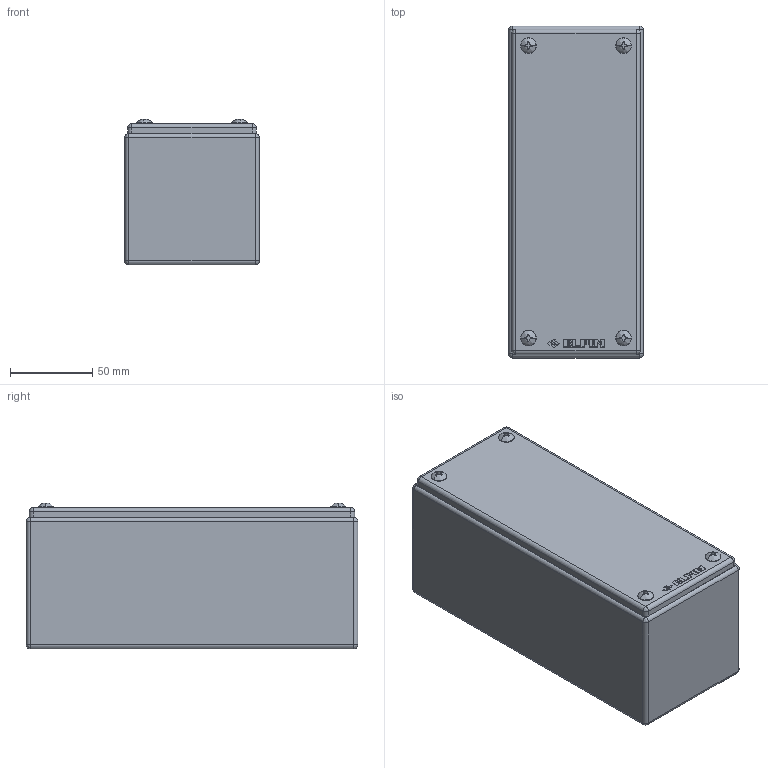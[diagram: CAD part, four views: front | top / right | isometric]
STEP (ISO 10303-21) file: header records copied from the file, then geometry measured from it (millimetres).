
FILE_DESCRIPTION (( 'STEP AP214' ), '1' );
FILE_NAME ('040X0820-8.STEP', '2025-05-09T11:32:42', ( '' ), ( '' ), 'SwSTEP 2.0', 'SolidWorks 2013', '' );
FILE_SCHEMA (( 'AUTOMOTIVE_DESIGN' ));
Length unit declared in the file: millimetre
Products named in the file (1): 040X0820-8
Bounding box: 82 x 202 x 88.8 mm (x, y, z)
Volume: 98768.4 mm3; surface area: 165794.3 mm2
Topology: 13 solids, 13 shells, 448 faces, 1065 edges, 639 vertices
Faces by surface type: plane 258, cylinder 108, bspline 48, cone 28, torus 6
Entity records: 18450 total; most frequent: CARTESIAN_POINT 3281, ORIENTED_EDGE 2082, DIRECTION 2058, EDGE_CURVE 1041, AXIS2_PLACEMENT_3D 696, VECTOR 666, LINE 666, VERTEX_POINT 639
